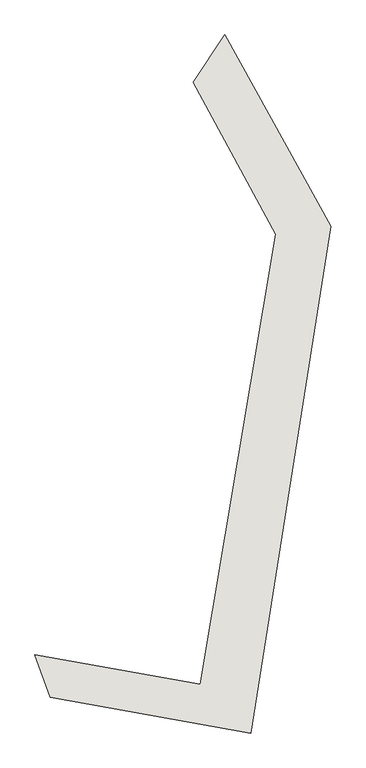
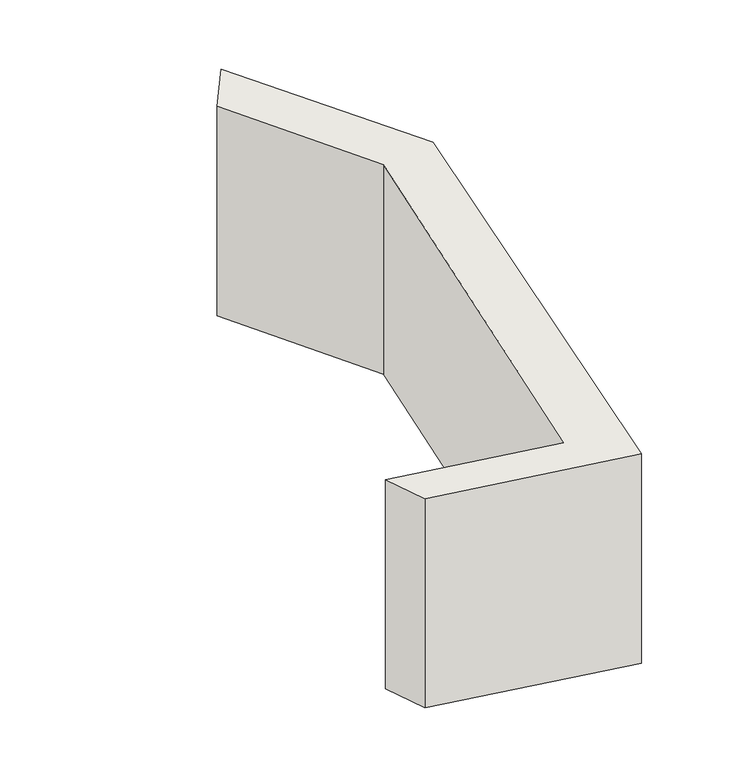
"""IFC4 building model written with IfcOpenShell, lengths in millimetres: wall geometry, Murs 1 : Murs 1."""

from ifc_helpers import new_model, si_unit, frame, origin, place, context, project, spatial, polyline, outline, extrude, source, transform, mapped, element, save


def wall_40f25151(model_context):
    return source(origin(), model_context, "Body", "SweptSolid", [
        extrude(outline(polyline([(29827.6727166, 5446.0124114), (28247.6846197, -4529.6398287), (24310.1956199, -3825.2391069), (24004.9314429, -2986.5326736), (27253.3598677, -3567.6632691), (28742.8016663, 5284.954071), (27120.7242924, 8273.0042665), (27742.9913495, 9206.877152), (29827.6727166, 5446.0124114)])), frame((0.0, 0.0, 21740.0), z_axis=(0.0, 0.0, 1.0), x_axis=(1.0, 0.0, 0.0)), (0.0, 0.0, 1.0), 4440.0),
    ])


if __name__ == "__main__":
    model = new_model("IFC4")
    model_context = context("Model", 3, world=origin())
    ifc_project = project(units=[si_unit("LENGTHUNIT", "METRE", prefix="MILLI")], contexts=[model_context])
    site = spatial("IfcSite", under=ifc_project)
    building = spatial("IfcBuilding", under=site)
    placement = place(None, origin())
    wall_shape = wall_40f25151(model_context)
    element("IfcWall", 1, ObjectType="Murs 1 : Murs 1", at=placement, inside=building, context=model_context, shape_type="MappedRepresentation", body=[
        mapped(wall_shape, transform((0.0, 0.0, 0.0), x_axis=(1.0, 0.0, 0.0), y_axis=(0.0, 1.0, 0.0), z_axis=(0.0, 0.0, 1.0))),
    ])
    save(model, "model.ifc")
